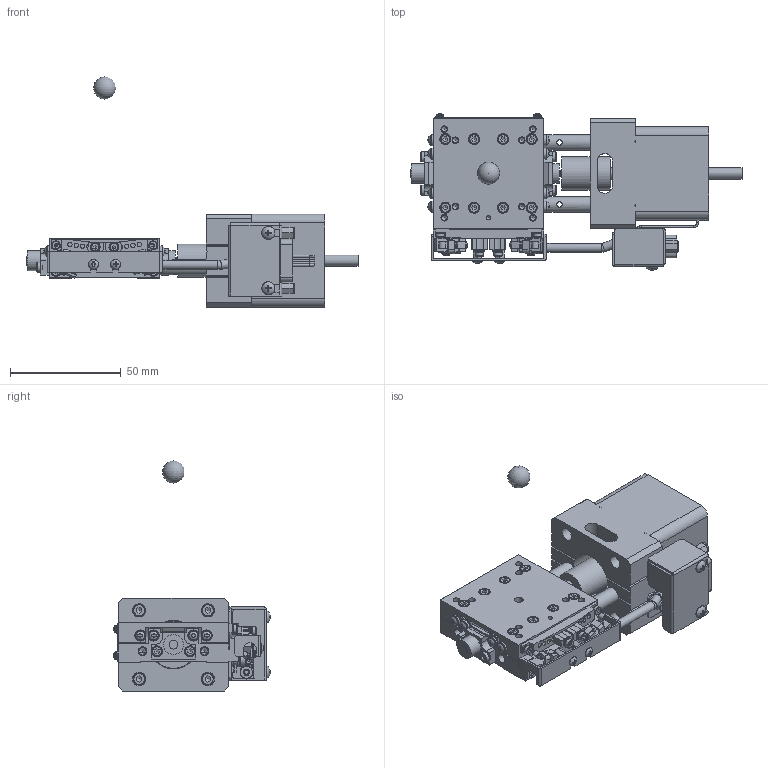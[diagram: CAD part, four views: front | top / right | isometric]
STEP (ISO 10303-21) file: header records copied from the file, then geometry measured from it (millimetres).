
FILE_DESCRIPTION( (''), '2;1');
FILE_NAME ('MVSA05B-RM02-R.stp','2025-02-07T09:37:39',(''),(''),'spGate 20.6.2 (****-****-****-****)','','');
FILE_SCHEMA (('AUTOMOTIVE_DESIGN'));
Length unit declared in the file: millimetre
Products named in the file (4): MVSA05B-RM02-R; rotation center; table; base
Assembly tree (3 placements, depth 2):
  MVSA05B-RM02-R
    rotation center
    table
    base
Bounding box: 150 x 70.67 x 104 mm (x, y, z)
Volume: 149129.1 mm3; surface area: 54065.6 mm2
Topology: 3 solids, 6 shells, 2769 faces, 7235 edges, 4664 vertices
Faces by surface type: plane 1847, cylinder 631, bspline 258, sphere 33
Full cylindrical faces by diameter (mm): 0.5 x9, 0.9 x15, 1 x9, 1.2 x18, 1.7 x9, 1.75 x1, 1.8 x18, 2 x38, 2.156 x2, 2.3 x1, 2.46 x10, 2.5 x12, 2.6 x4, 2.845 x6, 2.9 x1, 3 x15, 3.2 x2, 3.24 x1, 3.5 x4, 3.8 x6, 4 x12, 4.3 x2, 4.4 x2, 4.5 x34, 4.7 x2, 5 x31, 5.1 x1, 5.5 x6, 5.9 x2, 6 x10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
Entity records: 149449 total; most frequent: CARTESIAN_POINT 24872, ORIENTED_EDGE 14312, DIRECTION 13708, COLOUR_RGB 9928, PRESENTATION_STYLE_ASSIGNMENT 9928, STYLED_ITEM 9928, EDGE_CURVE 7156, DRAUGHTING_PRE_DEFINED_CURVE_FONT 7156
